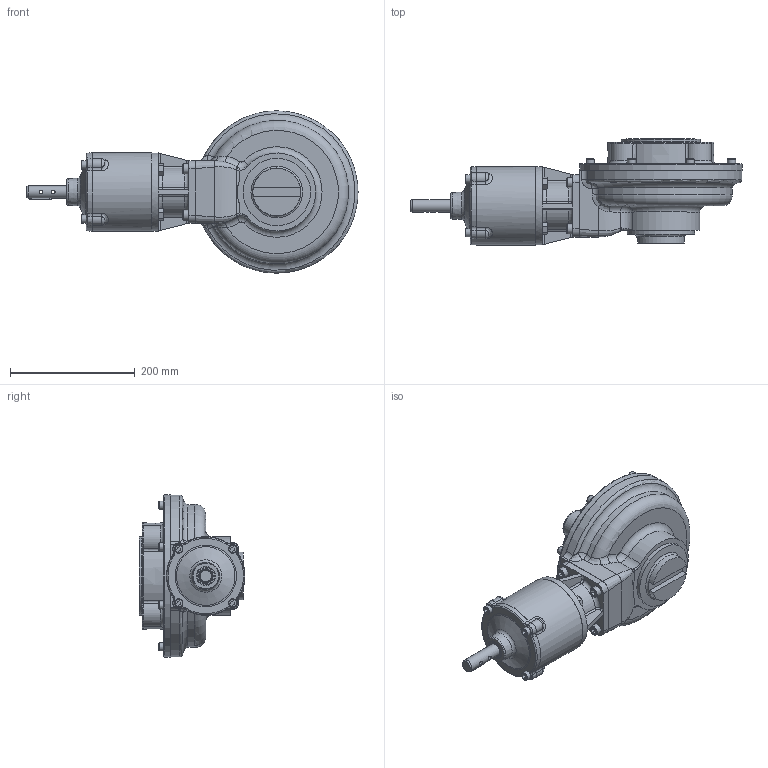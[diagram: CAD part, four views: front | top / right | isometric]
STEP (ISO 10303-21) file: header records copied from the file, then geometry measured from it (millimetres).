
FILE_DESCRIPTION(/* description */ ('Unknown','CAx-IF Rec.Pracs.---Representation and Presentation of Product Manufacturing Information (PMI)---4.0---2014-10-13','CAx-IF Rec.Pracs.---3D Tessellated Geometry---0.4---2014-09-14','2;1'),/* implementation_level */ '2;1');
FILE_NAME(/* name */ 'PUB-HOB6MPR6-12.5-MAN-F16',/* time_stamp */ '2018-09-27T12:07:57+01:00',/* author */ ('Unknown'),/* organization */ ('Unknown'),/* preprocessor_version */ 'ST-DEVELOPER v16.7',/* originating_system */ 'DEX',/* authorisation */ $);
FILE_SCHEMA (('AP242_MANAGED_MODEL_BASED_3D_ENGINEERING_MIM_LF { 1 0 10303 442 20130219 1 4 }'));
Length unit declared in the file: millimetre
Products named in the file (1): PUB-HOB6MPR6-12.5-MAN-F16
Bounding box: 531.52 x 169.7 x 260 mm (x, y, z)
Surface area: 382341.4 mm2 (no closed solid volume)
Topology: 0 solids, 34 shells, 602 faces, 1560 edges, 989 vertices
Faces by surface type: plane 224, cylinder 114, bspline 98, torus 89, cone 77
Full cylindrical faces by diameter (mm): 6 x2, 13 x8, 13.27 x4, 16 x4, 17.294 x8, 20 x1, 60.325 x1, 70 x1, 97.373 x1, 107.95 x1, 125 x1, 126 x1, 126.62 x1, 139.955 x1, 260 x1
Entity records: 20404 total; most frequent: CARTESIAN_POINT 6655, DIRECTION 2677, ORIENTED_EDGE 2673, EDGE_CURVE 1435, AXIS2_PLACEMENT_3D 1075, VERTEX_POINT 957, FACE_BOUND 762, EDGE_LOOP 758
